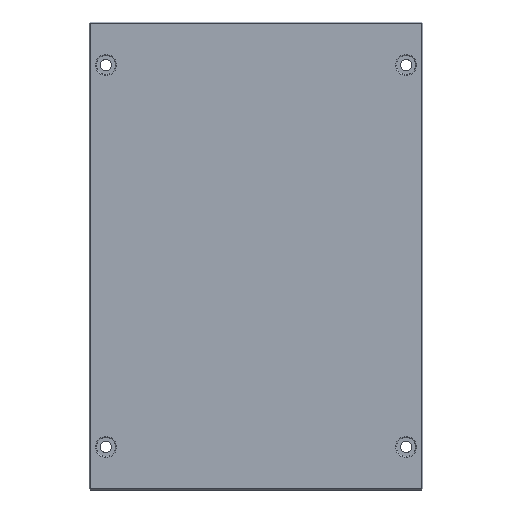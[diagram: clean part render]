
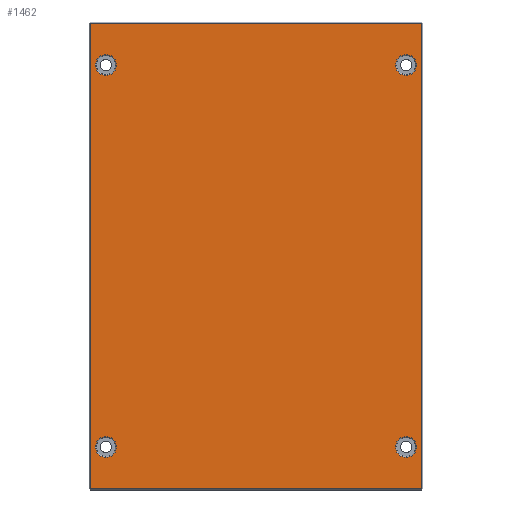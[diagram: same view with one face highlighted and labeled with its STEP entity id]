
A CAD part, front view. The second image highlights one B-rep face of the part: STEP entity #1462.
In plain terms, the highlighted planar face has unit normal (0, -1, 0).
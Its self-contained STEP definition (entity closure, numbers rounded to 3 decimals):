
#49 = EDGE_LOOP ( 'NONE', ( #1791, #1875, #1663, #2356 ) ) ;
#127 = DIRECTION ( 'NONE',  ( 0., 0., 1. ) ) ;
#128 = LINE ( 'NONE', #1570, #1618 ) ;
#137 = DIRECTION ( 'NONE',  ( 0., 1., 0. ) ) ;
#146 = CARTESIAN_POINT ( 'NONE',  ( 143., 0., -172. ) ) ;
#147 = CARTESIAN_POINT ( 'NONE',  ( -143., 0., 182. ) ) ;
#221 = FACE_BOUND ( 'NONE', #2408, .T. ) ;
#301 = AXIS2_PLACEMENT_3D ( 'NONE', #2143, #2317, #2109 ) ;
#320 = CIRCLE ( 'NONE', #702, 10. ) ;
#330 = EDGE_LOOP ( 'NONE', ( #1482, #2053 ) ) ;
#387 = AXIS2_PLACEMENT_3D ( 'NONE', #1441, #1424, #1402 ) ;
#423 = VERTEX_POINT ( 'NONE', #2059 ) ;
#439 = CIRCLE ( 'NONE', #2047, 10. ) ;
#546 = EDGE_CURVE ( 'NONE', #1787, #1034, #1116, .T. ) ;
#621 = EDGE_CURVE ( 'NONE', #1017, #2501, #2539, .T. ) ;
#651 = EDGE_CURVE ( 'NONE', #2501, #1017, #1929, .T. ) ;
#654 = CARTESIAN_POINT ( 'NONE',  ( -143., 0., -172. ) ) ;
#668 = VERTEX_POINT ( 'NONE', #950 ) ;
#689 = DIRECTION ( 'NONE',  ( 0., 0., 1. ) ) ;
#692 = DIRECTION ( 'NONE',  ( 0., 1., 0. ) ) ;
#696 = FACE_BOUND ( 'NONE', #932, .T. ) ;
#702 = AXIS2_PLACEMENT_3D ( 'NONE', #2418, #2405, #2394 ) ;
#713 = CARTESIAN_POINT ( 'NONE',  ( 143., 0., -182. ) ) ;
#758 = EDGE_CURVE ( 'NONE', #1034, #1787, #320, .T. ) ;
#781 = CARTESIAN_POINT ( 'NONE',  ( 143., 0., 172. ) ) ;
#785 = CARTESIAN_POINT ( 'NONE',  ( -143., 0., 192. ) ) ;
#826 = CIRCLE ( 'NONE', #1339, 10. ) ;
#932 = EDGE_LOOP ( 'NONE', ( #1975, #1330 ) ) ;
#950 = CARTESIAN_POINT ( 'NONE',  ( -158., 0., 222. ) ) ;
#967 = VERTEX_POINT ( 'NONE', #1058 ) ;
#989 = DIRECTION ( 'NONE',  ( 0., 0., 1. ) ) ;
#990 = DIRECTION ( 'NONE',  ( 0., 0., 1. ) ) ;
#1017 = VERTEX_POINT ( 'NONE', #781 ) ;
#1022 = EDGE_CURVE ( 'NONE', #2002, #2055, #826, .T. ) ;
#1034 = VERTEX_POINT ( 'NONE', #654 ) ;
#1040 = DIRECTION ( 'NONE',  ( 0., 1., 0. ) ) ;
#1058 = CARTESIAN_POINT ( 'NONE',  ( 158., 0., -222. ) ) ;
#1094 = CARTESIAN_POINT ( 'NONE',  ( 158., 0., 0. ) ) ;
#1095 = CARTESIAN_POINT ( 'NONE',  ( 143., 0., 182. ) ) ;
#1116 = CIRCLE ( 'NONE', #1616, 10. ) ;
#1121 = EDGE_CURVE ( 'NONE', #2081, #1270, #1985, .T. ) ;
#1138 = DIRECTION ( 'NONE',  ( 0., 0., 1. ) ) ;
#1142 = LINE ( 'NONE', #1094, #1677 ) ;
#1168 = DIRECTION ( 'NONE',  ( 0., 1., 0. ) ) ;
#1180 = CARTESIAN_POINT ( 'NONE',  ( -143., 0., 182. ) ) ;
#1196 = AXIS2_PLACEMENT_3D ( 'NONE', #147, #137, #127 ) ;
#1198 = CARTESIAN_POINT ( 'NONE',  ( 143., 0., -192. ) ) ;
#1239 = CARTESIAN_POINT ( 'NONE',  ( -158., 0., 0. ) ) ;
#1243 = FACE_BOUND ( 'NONE', #1333, .T. ) ;
#1258 = AXIS2_PLACEMENT_3D ( 'NONE', #1095, #1040, #990 ) ;
#1270 = VERTEX_POINT ( 'NONE', #1673 ) ;
#1295 = DIRECTION ( 'NONE',  ( 0., 0., -1. ) ) ;
#1303 = EDGE_CURVE ( 'NONE', #2234, #967, #128, .T. ) ;
#1330 = ORIENTED_EDGE ( 'NONE', *, *, #651, .T. ) ;
#1333 = EDGE_LOOP ( 'NONE', ( #1546, #1517 ) ) ;
#1339 = AXIS2_PLACEMENT_3D ( 'NONE', #713, #692, #689 ) ;
#1352 = EDGE_CURVE ( 'NONE', #668, #2234, #2067, .T. ) ;
#1402 = DIRECTION ( 'NONE',  ( 0., 0., 1. ) ) ;
#1424 = DIRECTION ( 'NONE',  ( 0., 1., 0. ) ) ;
#1441 = CARTESIAN_POINT ( 'NONE',  ( 143., 0., -182. ) ) ;
#1462 = ADVANCED_FACE ( 'NONE', ( #2273, #221, #1243, #1771, #696 ), #2400, .F. ) ;
#1468 = EDGE_CURVE ( 'NONE', #423, #668, #2210, .T. ) ;
#1477 = DIRECTION ( 'NONE',  ( 1., 0., 0. ) ) ;
#1482 = ORIENTED_EDGE ( 'NONE', *, *, #546, .T. ) ;
#1517 = ORIENTED_EDGE ( 'NONE', *, *, #1022, .T. ) ;
#1521 = EDGE_CURVE ( 'NONE', #2055, #2002, #1936, .T. ) ;
#1524 = AXIS2_PLACEMENT_3D ( 'NONE', #1649, #1678, #1643 ) ;
#1546 = ORIENTED_EDGE ( 'NONE', *, *, #1521, .T. ) ;
#1547 = ORIENTED_EDGE ( 'NONE', *, *, #1121, .T. ) ;
#1549 = CARTESIAN_POINT ( 'NONE',  ( -158., 0., -222. ) ) ;
#1570 = CARTESIAN_POINT ( 'NONE',  ( 0., 0., -222. ) ) ;
#1601 = CARTESIAN_POINT ( 'NONE',  ( -143., 0., -192. ) ) ;
#1616 = AXIS2_PLACEMENT_3D ( 'NONE', #2543, #2504, #2548 ) ;
#1618 = VECTOR ( 'NONE', #1477, 1000. ) ;
#1643 = DIRECTION ( 'NONE',  ( 0., 0., 1. ) ) ;
#1649 = CARTESIAN_POINT ( 'NONE',  ( 143., 0., 182. ) ) ;
#1661 = ORIENTED_EDGE ( 'NONE', *, *, #2266, .T. ) ;
#1663 = ORIENTED_EDGE ( 'NONE', *, *, #1352, .T. ) ;
#1673 = CARTESIAN_POINT ( 'NONE',  ( -143., 0., 172. ) ) ;
#1677 = VECTOR ( 'NONE', #989, 1000. ) ;
#1678 = DIRECTION ( 'NONE',  ( 0., 1., 0. ) ) ;
#1702 = CARTESIAN_POINT ( 'NONE',  ( 143., 0., 192. ) ) ;
#1771 = FACE_BOUND ( 'NONE', #330, .T. ) ;
#1787 = VERTEX_POINT ( 'NONE', #1601 ) ;
#1791 = ORIENTED_EDGE ( 'NONE', *, *, #1858, .T. ) ;
#1858 = EDGE_CURVE ( 'NONE', #967, #423, #1142, .T. ) ;
#1875 = ORIENTED_EDGE ( 'NONE', *, *, #1468, .T. ) ;
#1929 = CIRCLE ( 'NONE', #1258, 10. ) ;
#1936 = CIRCLE ( 'NONE', #387, 10. ) ;
#1975 = ORIENTED_EDGE ( 'NONE', *, *, #621, .T. ) ;
#1985 = CIRCLE ( 'NONE', #1196, 10. ) ;
#2002 = VERTEX_POINT ( 'NONE', #146 ) ;
#2047 = AXIS2_PLACEMENT_3D ( 'NONE', #1180, #1168, #1138 ) ;
#2053 = ORIENTED_EDGE ( 'NONE', *, *, #758, .T. ) ;
#2054 = DIRECTION ( 'NONE',  ( -1., 0., 0. ) ) ;
#2055 = VERTEX_POINT ( 'NONE', #1198 ) ;
#2059 = CARTESIAN_POINT ( 'NONE',  ( 158., 0., 222. ) ) ;
#2067 = LINE ( 'NONE', #1239, #2511 ) ;
#2081 = VERTEX_POINT ( 'NONE', #785 ) ;
#2088 = CARTESIAN_POINT ( 'NONE',  ( 0., 0., 222. ) ) ;
#2109 = DIRECTION ( 'NONE',  ( 0., 0., 1. ) ) ;
#2143 = CARTESIAN_POINT ( 'NONE',  ( 0., 0., 0. ) ) ;
#2150 = VECTOR ( 'NONE', #2054, 1000. ) ;
#2210 = LINE ( 'NONE', #2088, #2150 ) ;
#2234 = VERTEX_POINT ( 'NONE', #1549 ) ;
#2266 = EDGE_CURVE ( 'NONE', #1270, #2081, #439, .T. ) ;
#2273 = FACE_OUTER_BOUND ( 'NONE', #49, .T. ) ;
#2317 = DIRECTION ( 'NONE',  ( 0., 1., 0. ) ) ;
#2356 = ORIENTED_EDGE ( 'NONE', *, *, #1303, .T. ) ;
#2394 = DIRECTION ( 'NONE',  ( 0., 0., 1. ) ) ;
#2400 = PLANE ( 'NONE',  #301 ) ;
#2405 = DIRECTION ( 'NONE',  ( 0., 1., 0. ) ) ;
#2408 = EDGE_LOOP ( 'NONE', ( #1661, #1547 ) ) ;
#2418 = CARTESIAN_POINT ( 'NONE',  ( -143., 0., -182. ) ) ;
#2501 = VERTEX_POINT ( 'NONE', #1702 ) ;
#2504 = DIRECTION ( 'NONE',  ( 0., 1., 0. ) ) ;
#2511 = VECTOR ( 'NONE', #1295, 1000. ) ;
#2539 = CIRCLE ( 'NONE', #1524, 10. ) ;
#2543 = CARTESIAN_POINT ( 'NONE',  ( -143., 0., -182. ) ) ;
#2548 = DIRECTION ( 'NONE',  ( 0., 0., 1. ) ) ;
